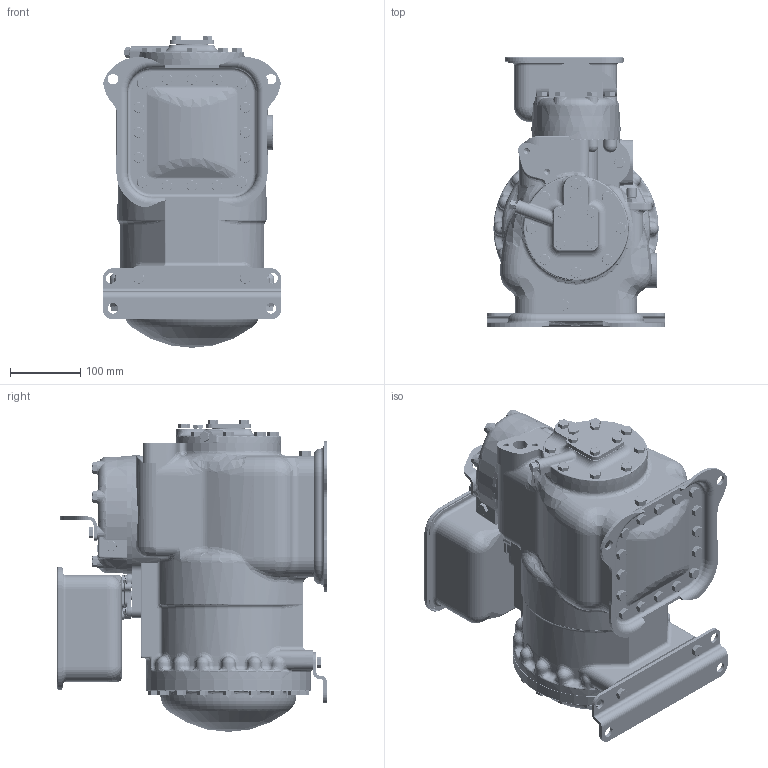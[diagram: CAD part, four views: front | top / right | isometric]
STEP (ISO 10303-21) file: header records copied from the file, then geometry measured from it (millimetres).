
FILE_DESCRIPTION((''),'2;1');
FILE_NAME('06D2_3PH','2011-05-16T',('cactfrq'),('CARRIER_CORP'),'PRO/ENGINEER BY PARAMETRIC TECHNOLOGY CORPORATION, 2010180','PRO/ENGINEER BY PARAMETRIC TECHNOLOGY CORPORATION, 2010180','');
FILE_SCHEMA(('CONFIG_CONTROL_DESIGN'));
Length unit declared in the file: inch
Products named in the file (1): 06D2_3PH
Bounding box: 254 x 384.94 x 444.76 mm (x, y, z)
Surface area: 1458509.9 mm2 (no closed solid volume)
Topology: 0 solids, 340 shells, 4714 faces, 15576 edges, 11013 vertices
Faces by surface type: plane 1610, cylinder 1165, bspline 695, cone 669, torus 434, sphere 141
Entity records: 215389 total; most frequent: CARTESIAN_POINT 85354, DIRECTION 26373, ORIENTED_EDGE 25624, EDGE_CURVE 15516, VERTEX_POINT 11012, AXIS2_PLACEMENT_3D 10080, VECTOR 6213, LINE 6213
